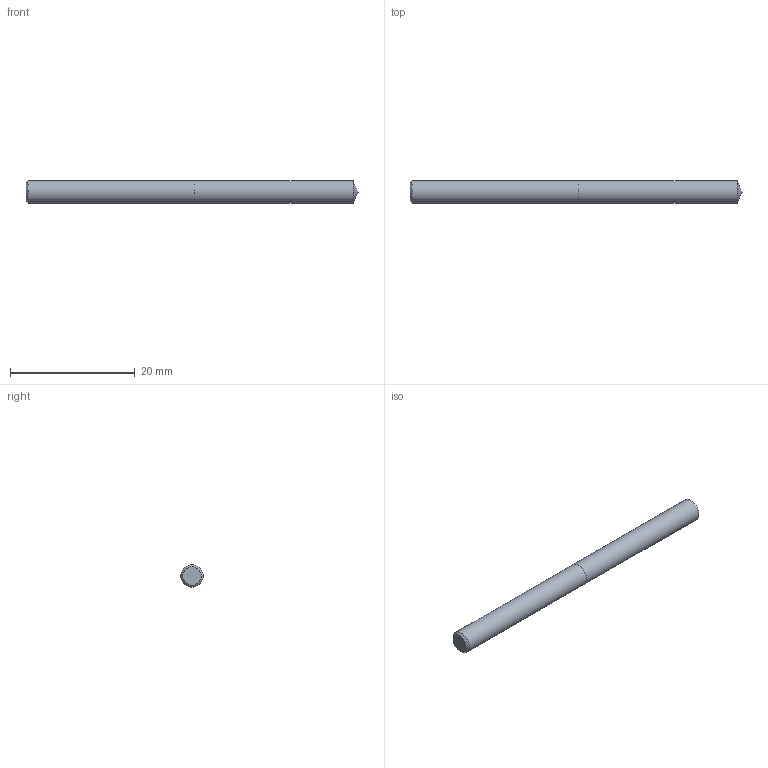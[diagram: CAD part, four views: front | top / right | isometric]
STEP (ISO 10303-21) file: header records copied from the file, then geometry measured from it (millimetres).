
FILE_DESCRIPTION (( 'STEP AP214' ), '1' );
FILE_NAME ('03-2369.STEP', '2022-06-03T06:50:26', ( 'USER' ), ( '' ), 'SwSTEP 2.0', 'SolidWorks 2018', '' );
FILE_SCHEMA (( 'AUTOMOTIVE_DESIGN' ));
Length unit declared in the file: inch
Products named in the file (1): 03-2369
Bounding box: 53.15 x 3.66 x 3.66 mm (x, y, z)
Volume: 552.4 mm3; surface area: 642.2 mm2
Topology: 2 solids, 2 shells, 7 faces, 11 edges, 7 vertices
Faces by surface type: plane 3, cylinder 2, cone 2
Full cylindrical faces by diameter (mm): 3.658 x2
Entity records: 214 total; most frequent: DIRECTION 26, CARTESIAN_POINT 18, AXIS2_PLACEMENT_3D 13, ORIENTED_EDGE 10, EDGE_LOOP 10, FACE_OUTER_BOUND 9, ADVANCED_FACE 7, LENGTH_MEASURE_WITH_UNIT 7
